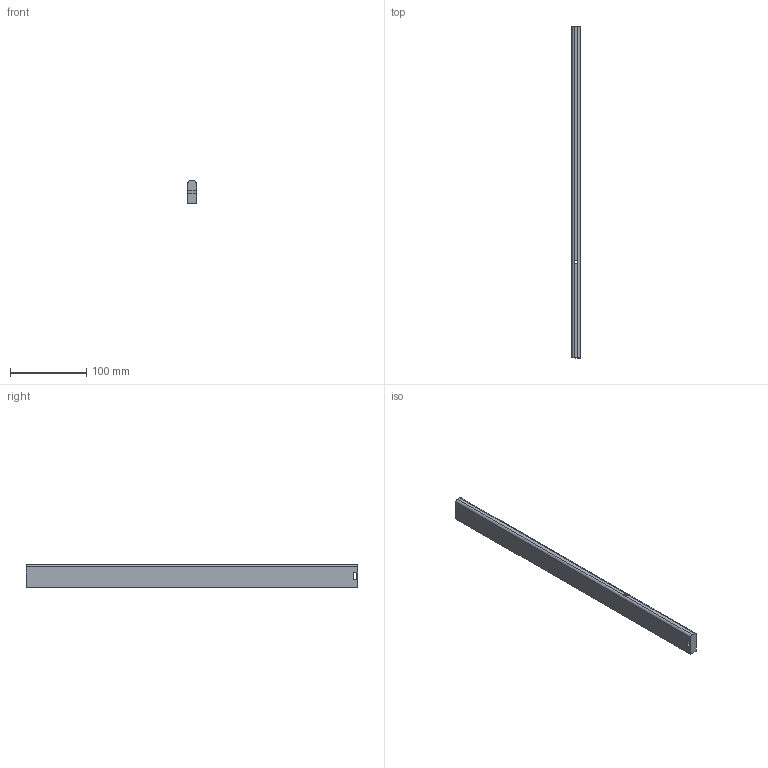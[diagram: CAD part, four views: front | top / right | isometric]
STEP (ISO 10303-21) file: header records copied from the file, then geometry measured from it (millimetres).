
FILE_DESCRIPTION (( 'STEP AP214' ), '1' );
FILE_NAME ('_Seitenreling_S760610200_RL435.step', '2010-09-06T14:51:44', ( 'grass' ), ( '' ), 'SwSTEP 2.0', 'SolidWorks 2010', '' );
FILE_SCHEMA (( 'AUTOMOTIVE_DESIGN' ));
Length unit declared in the file: millimetre
Products named in the file (1): _Seitenreling_S760610200_RL435
Bounding box: 10.5 x 435 x 30 mm (x, y, z)
Volume: 133957 mm3; surface area: 35456.1 mm2
Topology: 1 solids, 1 shells, 18 faces, 46 edges, 30 vertices
Faces by surface type: plane 10, cylinder 8
Entity records: 594 total; most frequent: DIRECTION 102, CARTESIAN_POINT 95, ORIENTED_EDGE 92, EDGE_CURVE 46, AXIS2_PLACEMENT_3D 37, VERTEX_POINT 30, LINE 28, VECTOR 28
